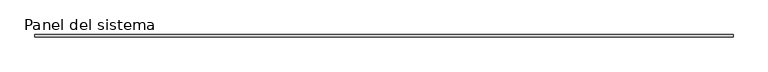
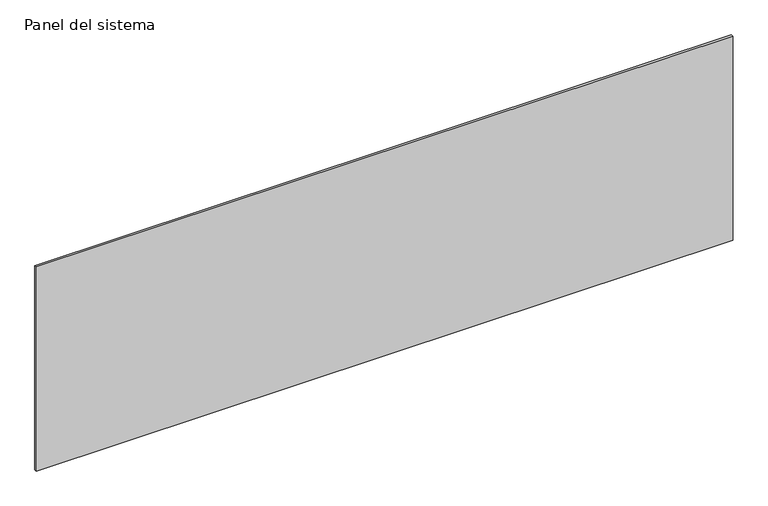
"""IFC4 building model written with IfcOpenShell, lengths in millimetres: plate geometry, Panel del sistema : Barnadal cristal."""

from ifc_helpers import new_model, si_unit, origin, origin_with_axes, place, context, project, spatial, polyline, outline, extrude, source, transform, mapped, element, save


def panel_del_sistema_6213fee9(model_context):
    return source(origin(), model_context, "Body", "SweptSolid", [
        extrude(outline(polyline([(1534.0319614, -5.0), (-1534.0319614, -5.0), (-1534.0319614, 5.0), (1534.0319614, 5.0), (1534.0319614, -5.0)])), origin_with_axes(), (0.0, 0.0, 1.0), 950.0),
    ])


if __name__ == "__main__":
    model = new_model("IFC4")
    model_context = context("Model", 3, world=origin())
    ifc_project = project(units=[si_unit("LENGTHUNIT", "METRE", prefix="MILLI")], contexts=[model_context])
    site = spatial("IfcSite", under=ifc_project)
    building = spatial("IfcBuilding", under=site)
    placement = place(None, origin())
    panel_del_sistema_shape = panel_del_sistema_6213fee9(model_context)
    element("IfcPlate", 1, ObjectType="Panel del sistema : Barnadal cristal", at=placement, inside=building, context=model_context, shape_type="MappedRepresentation", body=[
        mapped(panel_del_sistema_shape, transform((0.0, 0.0, 0.0), x_axis=(1.0, 0.0, 0.0), y_axis=(0.0, 1.0, 0.0), z_axis=(0.0, 0.0, 1.0))),
    ])
    save(model, "model.ifc")
